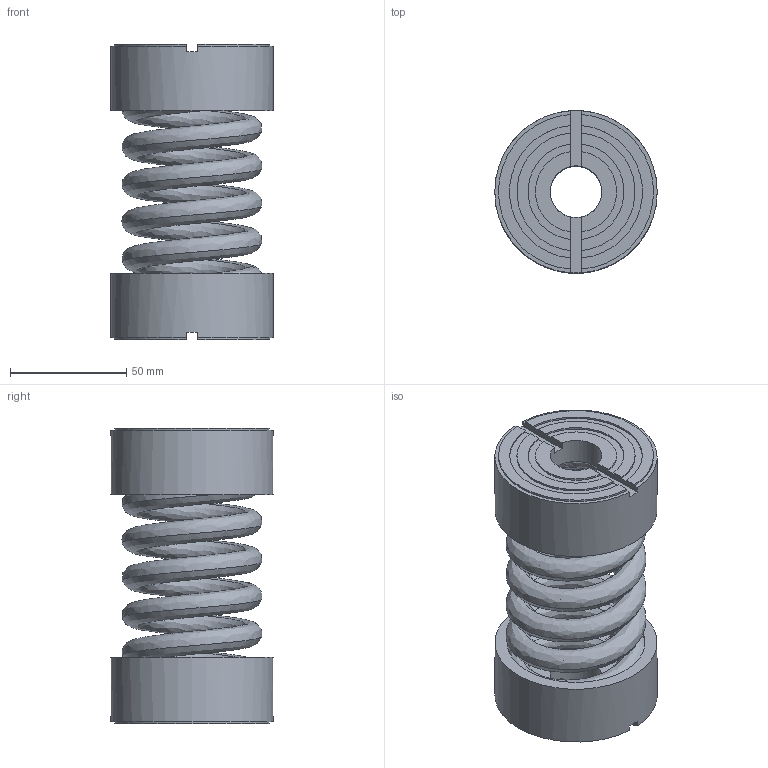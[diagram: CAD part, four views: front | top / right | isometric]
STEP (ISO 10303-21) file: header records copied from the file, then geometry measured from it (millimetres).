
FILE_DESCRIPTION(/* description */ (''),/* implementation_level */ '2;1');
FILE_NAME(/* name */ '\\Mleuckthor2\cad-proe_solids\WEBSITE FILES 05.22.13\STEP\IMF\IMF-B-1000.stp',/* time_stamp */ '2016-03-05T15:55:21-05:00',/* author */ ('rramoutar'),/* organization */ ('Mason Industries Inc.'),/* preprocessor_version */ 'ST-DEVELOPER v15.6',/* originating_system */ 'Autodesk Inventor 2015',/* authorisation */ '');
FILE_SCHEMA (('CONFIG_CONTROL_DESIGN'));
Length unit declared in the file: inch
Products named in the file (1): IMF-B-1000 FLOOR SPRING MOUNT
Bounding box: 69.85 x 69.85 x 127 mm (x, y, z)
Volume: 133228.5 mm3; surface area: 111712.8 mm2
Topology: 5 solids, 7 shells, 294 faces, 774 edges, 516 vertices
Faces by surface type: plane 212, bspline 46, cylinder 36
Full cylindrical faces by diameter (mm): 22.225 x2, 29.369 x4, 59.531 x2, 60.325 x4, 69.85 x2
Entity records: 19095 total; most frequent: CARTESIAN_POINT 11769, ORIENTED_EDGE 1512, DIRECTION 1244, EDGE_CURVE 756, LINE 574, VECTOR 574, VERTEX_POINT 512, EDGE_LOOP 344
